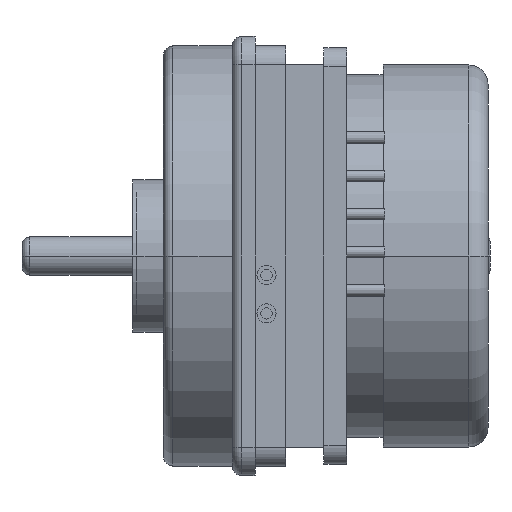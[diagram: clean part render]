
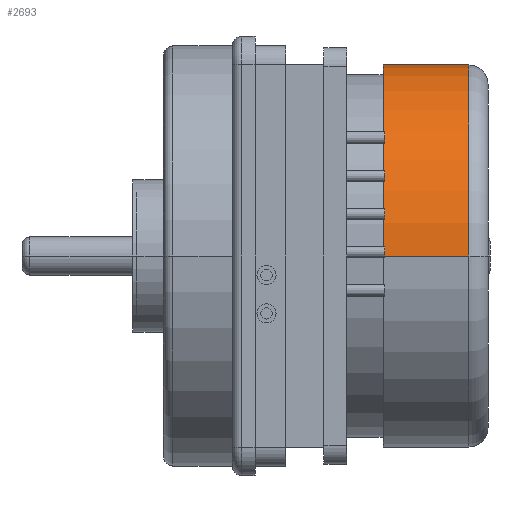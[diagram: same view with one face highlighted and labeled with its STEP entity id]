
A CAD part, front view. The second image highlights one B-rep face of the part: STEP entity #2693.
In plain terms, the highlighted cylindrical face has radius 10 mm (diameter 20 mm), a partial arc.
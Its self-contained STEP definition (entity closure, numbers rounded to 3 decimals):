
#890=CARTESIAN_POINT('',(7.9,0.,0.));
#891=DIRECTION('',(1.,0.,0.));
#892=DIRECTION('',(0.,1.,0.));
#893=AXIS2_PLACEMENT_3D('',#890,#891,#892);
#900=CARTESIAN_POINT('',(12.4,0.,0.));
#901=DIRECTION('',(-1.,0.,0.));
#902=DIRECTION('',(0.,-1.,0.));
#903=AXIS2_PLACEMENT_3D('',#900,#901,#902);
#920=DIRECTION('',(-1.,0.,0.));
#921=VECTOR('',#920,4.5);
#922=CARTESIAN_POINT('',(12.4,10.,0.));
#923=LINE('',#922,#921);
#924=DIRECTION('',(-1.,0.,0.));
#925=VECTOR('',#924,4.5);
#926=CARTESIAN_POINT('',(12.4,-10.,0.));
#927=LINE('',#926,#925);
#1405=CARTESIAN_POINT('',(7.9,10.,0.));
#1406=CARTESIAN_POINT('',(7.9,-10.,0.));
#1407=VERTEX_POINT('',#1405);
#1408=VERTEX_POINT('',#1406);
#1441=CARTESIAN_POINT('',(12.4,10.,0.));
#1442=CARTESIAN_POINT('',(12.4,-10.,0.));
#1443=VERTEX_POINT('',#1441);
#1444=VERTEX_POINT('',#1442);
#2679=CARTESIAN_POINT('',(2.265,0.,0.));
#2680=DIRECTION('',(1.,0.,0.));
#2681=DIRECTION('',(0.,-1.,0.));
#2682=AXIS2_PLACEMENT_3D('',#2679,#2680,#2681);
#2683=CYLINDRICAL_SURFACE('',#2682,10.);
#2685=ORIENTED_EDGE('',*,*,#2684,.F.);
#2687=ORIENTED_EDGE('',*,*,#2686,.T.);
#2688=ORIENTED_EDGE('',*,*,#2668,.F.);
#2690=ORIENTED_EDGE('',*,*,#2689,.F.);
#2691=EDGE_LOOP('',(#2685,#2687,#2688,#2690));
#2692=FACE_OUTER_BOUND('',#2691,.F.);
#2693=ADVANCED_FACE('',(#2692),#2683,.T.);
#894=CIRCLE('',#893,10.);
#904=CIRCLE('',#903,10.);
#2668=EDGE_CURVE('',#1407,#1408,#894,.T.);
#2684=EDGE_CURVE('',#1444,#1443,#904,.T.);
#2686=EDGE_CURVE('',#1444,#1408,#927,.T.);
#2689=EDGE_CURVE('',#1443,#1407,#923,.T.);
